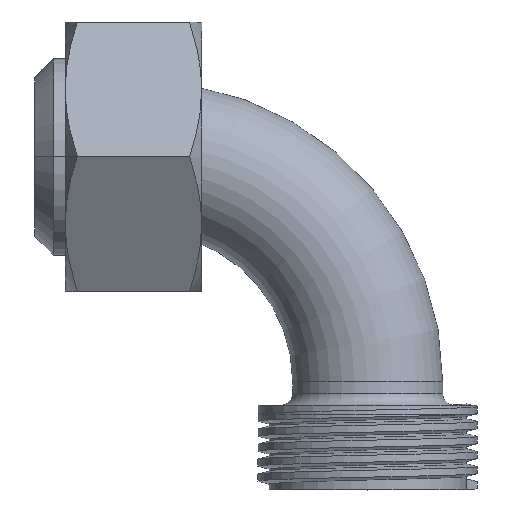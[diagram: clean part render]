
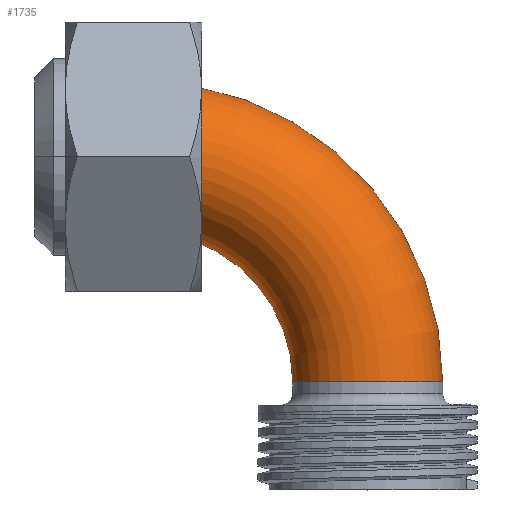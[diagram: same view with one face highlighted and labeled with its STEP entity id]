
A CAD part, top view. The second image highlights one B-rep face of the part: STEP entity #1735.
In plain terms, the highlighted toroidal (fillet/blend) face has major radius 38.1 mm and minor radius 12.7 mm.
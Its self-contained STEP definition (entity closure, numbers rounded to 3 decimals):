
#92 = VERTEX_POINT ( 'NONE', #869 ) ;
#111 = DIRECTION ( 'NONE',  ( -1., 0., 0. ) ) ;
#128 = DIRECTION ( 'NONE',  ( 0., 0., -1. ) ) ;
#139 = CARTESIAN_POINT ( 'NONE',  ( 0., 0., 0. ) ) ;
#454 = AXIS2_PLACEMENT_3D ( 'NONE', #1691, #2126, #1407 ) ;
#487 = DIRECTION ( 'NONE',  ( 0., 0., -1. ) ) ;
#623 = AXIS2_PLACEMENT_3D ( 'NONE', #139, #487, #111 ) ;
#869 = CARTESIAN_POINT ( 'NONE',  ( 0., 25.4, 0. ) ) ;
#960 = DIRECTION ( 'NONE',  ( -1., 0., 0. ) ) ;
#1407 = DIRECTION ( 'NONE',  ( -1., 0., 0. ) ) ;
#1450 = AXIS2_PLACEMENT_3D ( 'NONE', #2854, #960, #2475 ) ;
#1461 = CARTESIAN_POINT ( 'NONE',  ( 50.8, 0., 0. ) ) ;
#1468 = AXIS2_PLACEMENT_3D ( 'NONE', #4434, #2064, #1693 ) ;
#1504 = ORIENTED_EDGE ( 'NONE', *, *, #1822, .F. ) ;
#1553 = EDGE_CURVE ( 'NONE', #92, #4378, #2594, .T. ) ;
#1691 = CARTESIAN_POINT ( 'NONE',  ( 0., 0., 0. ) ) ;
#1693 = DIRECTION ( 'NONE',  ( 0., 0., 1. ) ) ;
#1735 = ADVANCED_FACE ( 'NONE', ( #2883 ), #3016, .T. ) ;
#1822 = EDGE_CURVE ( 'NONE', #2206, #2873, #4523, .T. ) ;
#2028 = CIRCLE ( 'NONE', #1468, 12.7 ) ;
#2064 = DIRECTION ( 'NONE',  ( 0., 1., 0. ) ) ;
#2126 = DIRECTION ( 'NONE',  ( 0., 0., -1. ) ) ;
#2206 = VERTEX_POINT ( 'NONE', #4337 ) ;
#2475 = DIRECTION ( 'NONE',  ( 0., 0., 1. ) ) ;
#2594 = CIRCLE ( 'NONE', #623, 25.4 ) ;
#2639 = EDGE_CURVE ( 'NONE', #4378, #2873, #2028, .T. ) ;
#2761 = DIRECTION ( 'NONE',  ( -1., 0., 0. ) ) ;
#2822 = CARTESIAN_POINT ( 'NONE',  ( 25.4, 0., 0. ) ) ;
#2854 = CARTESIAN_POINT ( 'NONE',  ( 0., 38.1, 0. ) ) ;
#2873 = VERTEX_POINT ( 'NONE', #1461 ) ;
#2883 = FACE_OUTER_BOUND ( 'NONE', #4117, .T. ) ;
#3016 = TOROIDAL_SURFACE ( 'NONE', #454, 38.1, 12.7 ) ;
#3556 = CARTESIAN_POINT ( 'NONE',  ( 0., 0., 0. ) ) ;
#4117 = EDGE_LOOP ( 'NONE', ( #1504, #4211, #4458, #4163 ) ) ;
#4163 = ORIENTED_EDGE ( 'NONE', *, *, #2639, .T. ) ;
#4211 = ORIENTED_EDGE ( 'NONE', *, *, #4847, .F. ) ;
#4337 = CARTESIAN_POINT ( 'NONE',  ( 0., 50.8, 0. ) ) ;
#4378 = VERTEX_POINT ( 'NONE', #2822 ) ;
#4434 = CARTESIAN_POINT ( 'NONE',  ( 38.1, 0., 0. ) ) ;
#4458 = ORIENTED_EDGE ( 'NONE', *, *, #1553, .T. ) ;
#4477 = CIRCLE ( 'NONE', #1450, 12.7 ) ;
#4523 = CIRCLE ( 'NONE', #4538, 50.8 ) ;
#4538 = AXIS2_PLACEMENT_3D ( 'NONE', #3556, #128, #2761 ) ;
#4847 = EDGE_CURVE ( 'NONE', #92, #2206, #4477, .T. ) ;
